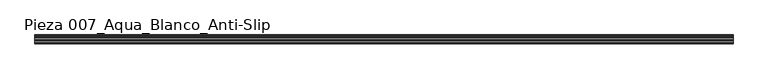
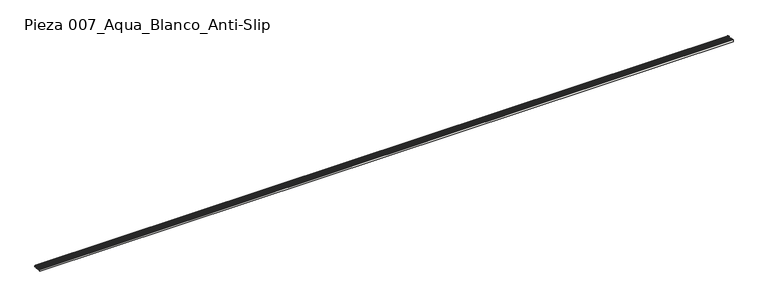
"""IFC4 building model written with IfcOpenShell, lengths in millimetres: slab geometry, ROSA GRES_007 : Pieza 007_Aqua_Blanco_Anti-Slip."""

from ifc_helpers import new_model, si_unit, point, frame, frame_2d, origin, place, context, project, spatial, polyline, circle_curve, trimmed, segment, composite_curve, outline, extrude, source, transform, mapped, element, save


def pieza_007_aqua_blanco_anti_slip_306100f5(model_context):
    return source(origin(), model_context, "Body", "SweptSolid", [
        extrude(outline(composite_curve([segment(trimmed(circle_curve(frame_2d((-25.9545763, 173.0767428)), 11.6464304), [point((-14.3742659, 174.3159971))], [point((-37.1820416, 176.172444))], True, "CARTESIAN"), True, "CONTINUOUS"), segment(polyline([(-37.1820416, 176.172444), (-33.8762309, 200.4746837), (-29.9345538, 200.1538709)]), True, "CONTINUOUS"), segment(trimmed(circle_curve(frame_2d((-27.3971937, 201.142641)), 2.7232081), [point((-29.9345538, 200.1538709))], [point((-24.7247274, 200.6193952))], True, "CARTESIAN"), True, "CONTINUOUS"), segment(trimmed(circle_curve(frame_2d((-20.3008643, 202.7650351)), 4.9167404), [point((-24.7247274, 200.6193952))], [point((-16.9364731, 199.1796191))], True, "CARTESIAN"), True, "CONTINUOUS"), segment(polyline([(-16.9364731, 199.1796191), (-12.7748841, 198.875801)]), True, "CONTINUOUS"), segment(trimmed(circle_curve(frame_2d((-15.1536138, 183.7870899)), 15.2750633), [point((-12.7748841, 198.875801))], [point((0.0710994, 182.547869))], False, "CARTESIAN"), True, "CONTINUOUS"), segment(polyline([(0.0710994, 182.547869), (-0.6896004, 173.202129), (-14.3742659, 174.3159971)]), True, "CONTINUOUS")], self_intersect=False)), frame((0.0, 0.0, 0.0), z_axis=(1.0, 0.0, 0.0), x_axis=(0.0, 1.0, 0.0)), (0.0, 0.0, 1.0), 9502.6320351),
        extrude(outline(composite_curve([segment(trimmed(circle_curve(frame_2d((-91.1625174, 167.3774726)), 22.5372595), [point((-71.8498608, 178.9942432))], [point((-108.342302, 181.9645582))], True, "CARTESIAN"), True, "CONTINUOUS"), segment(polyline([(-108.342302, 181.9645582), (-119.2900344, 182.8556525), (-117.4809059, 205.0820876), (-115.5338707, 204.9236084), (-115.3491545, 207.1930072), (-113.0660814, 207.0070959)]), True, "CONTINUOUS"), segment(trimmed(circle_curve(frame_2d((-109.1074243, 209.7932705)), 4.8408403), [point((-113.0660814, 207.0070959))], [point((-105.2742048, 206.836894))], True, "CARTESIAN"), True, "CONTINUOUS"), segment(trimmed(circle_curve(frame_2d((-100.9933064, 209.1504161)), 4.8660534), [point((-105.2742048, 206.836894))], [point((-97.1292049, 206.1928503))], True, "CARTESIAN"), True, "CONTINUOUS"), segment(trimmed(circle_curve(frame_2d((-92.9342908, 208.0451437)), 4.5856619), [point((-97.1292049, 206.1928503))], [point((-89.0833894, 205.555394))], True, "CARTESIAN"), True, "CONTINUOUS"), segment(trimmed(circle_curve(frame_2d((-84.8780848, 207.3839748)), 4.5856619), [point((-89.0833894, 205.555394))], [point((-81.0271834, 204.8942251))], True, "CARTESIAN"), True, "CONTINUOUS"), segment(trimmed(circle_curve(frame_2d((-76.8218788, 206.722806)), 4.5856619), [point((-81.0271834, 204.8942251))], [point((-73.3820924, 203.6902881))], True, "CARTESIAN"), True, "CONTINUOUS"), segment(polyline([(-73.3820924, 203.6902881), (-69.6579726, 203.3871621), (-69.3023399, 198.236672)]), True, "CONTINUOUS"), segment(trimmed(circle_curve(frame_2d((-57.0579989, 199.0821231)), 12.2734948), [point((-69.3023399, 198.236672))], [point((-61.867532, 187.7902205))], True, "CARTESIAN"), True, "CONTINUOUS"), segment(polyline([(-61.867532, 187.7902205), (-43.8250834, 186.3216491)]), True, "CONTINUOUS"), segment(trimmed(circle_curve(frame_2d((-43.5817022, 189.3117604)), 3.0), [point((-43.8250834, 186.3216491))], [point((-40.9402045, 187.8896178))], True, "CARTESIAN"), True, "CONTINUOUS"), segment(trimmed(circle_curve(frame_2d((-106.9597263, 233.2212806)), 80.084561), [point((-40.9402045, 187.8896178))], [point((-33.8762309, 200.4746837))], True, "CARTESIAN"), True, "CONTINUOUS"), segment(polyline([(-33.8762309, 200.4746837), (-37.1820416, 176.172444), (-71.8498608, 178.9942432)]), True, "CONTINUOUS")], self_intersect=False)), frame((0.0, 0.0, 0.0), z_axis=(1.0, 0.0, 0.0), x_axis=(0.0, 1.0, 0.0)), (0.0, 0.0, 1.0), 9502.6320351),
    ])


if __name__ == "__main__":
    model = new_model("IFC4")
    model_context = context("Model", 3, world=origin())
    ifc_project = project(units=[si_unit("LENGTHUNIT", "METRE", prefix="MILLI")], contexts=[model_context])
    site = spatial("IfcSite", under=ifc_project)
    building = spatial("IfcBuilding", under=site)
    placement = place(None, origin())
    pieza_007_aqua_blanco_anti_slip_shape = pieza_007_aqua_blanco_anti_slip_306100f5(model_context)
    element("IfcSlab", 1, ObjectType="ROSA GRES_007 : Pieza 007_Aqua_Blanco_Anti-Slip", at=placement, inside=building, context=model_context, shape_type="MappedRepresentation", body=[
        mapped(pieza_007_aqua_blanco_anti_slip_shape, transform((0.0, 0.0, 0.0), x_axis=(1.0, 0.0, 0.0), y_axis=(0.0, 1.0, 0.0), z_axis=(0.0, 0.0, 1.0))),
    ])
    save(model, "model.ifc")
